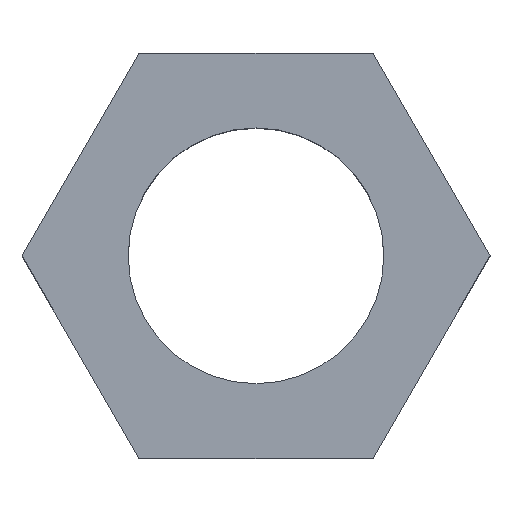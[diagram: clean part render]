
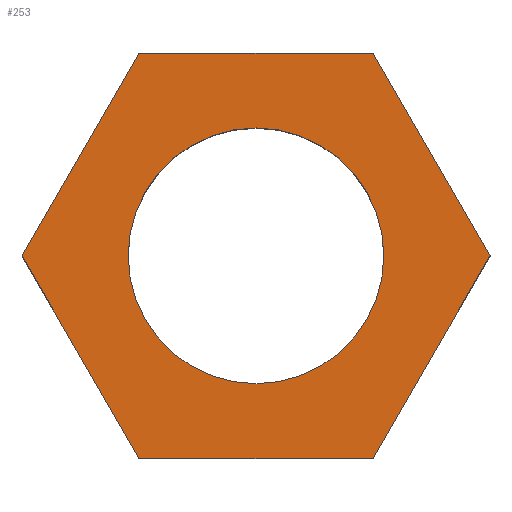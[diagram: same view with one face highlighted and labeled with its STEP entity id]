
A CAD part, top view. The second image highlights one B-rep face of the part: STEP entity #253.
In plain terms, the highlighted planar face has unit normal (0, 0, 1).
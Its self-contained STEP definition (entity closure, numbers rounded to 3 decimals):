
#24 = VERTEX_POINT('',#25);
#25 = CARTESIAN_POINT('',(7.506,0.,6.5));
#31 = EDGE_CURVE('',#24,#32,#34,.T.);
#32 = VERTEX_POINT('',#33);
#33 = CARTESIAN_POINT('',(3.753,6.5,6.5));
#34 = LINE('',#35,#36);
#35 = CARTESIAN_POINT('',(7.506,0.,6.5));
#36 = VECTOR('',#37,1.);
#37 = DIRECTION('',(-0.5,0.866,0.));
#62 = EDGE_CURVE('',#32,#63,#65,.T.);
#63 = VERTEX_POINT('',#64);
#64 = CARTESIAN_POINT('',(-3.753,6.5,6.5));
#65 = LINE('',#66,#67);
#66 = CARTESIAN_POINT('',(3.753,6.5,6.5));
#67 = VECTOR('',#68,1.);
#68 = DIRECTION('',(-1.,0.,0.));
#93 = EDGE_CURVE('',#63,#94,#96,.T.);
#94 = VERTEX_POINT('',#95);
#95 = CARTESIAN_POINT('',(-7.506,0.,6.5));
#96 = LINE('',#97,#98);
#97 = CARTESIAN_POINT('',(-3.753,6.5,6.5));
#98 = VECTOR('',#99,1.);
#99 = DIRECTION('',(-0.5,-0.866,0.));
#124 = EDGE_CURVE('',#94,#125,#127,.T.);
#125 = VERTEX_POINT('',#126);
#126 = CARTESIAN_POINT('',(-3.753,-6.5,6.5));
#127 = LINE('',#128,#129);
#128 = CARTESIAN_POINT('',(-7.506,0.,6.5));
#129 = VECTOR('',#130,1.);
#130 = DIRECTION('',(0.5,-0.866,0.));
#155 = EDGE_CURVE('',#125,#156,#158,.T.);
#156 = VERTEX_POINT('',#157);
#157 = CARTESIAN_POINT('',(3.753,-6.5,6.5));
#158 = LINE('',#159,#160);
#159 = CARTESIAN_POINT('',(-3.753,-6.5,6.5));
#160 = VECTOR('',#161,1.);
#161 = DIRECTION('',(1.,0.,0.));
#186 = EDGE_CURVE('',#156,#24,#187,.T.);
#187 = LINE('',#188,#189);
#188 = CARTESIAN_POINT('',(3.753,-6.5,6.5));
#189 = VECTOR('',#190,1.);
#190 = DIRECTION('',(0.5,0.866,0.));
#210 = VERTEX_POINT('',#211);
#211 = CARTESIAN_POINT('',(4.1,0.,6.5));
#217 = EDGE_CURVE('',#210,#210,#218,.T.);
#218 = CIRCLE('',#219,4.1);
#219 = AXIS2_PLACEMENT_3D('',#220,#221,#222);
#220 = CARTESIAN_POINT('',(0.,0.,6.5));
#221 = DIRECTION('',(0.,0.,1.));
#222 = DIRECTION('',(1.,0.,0.));
#253 = ADVANCED_FACE('',(#254,#262),#265,.T.);
#254 = FACE_BOUND('',#255,.T.);
#255 = EDGE_LOOP('',(#256,#257,#258,#259,#260,#261));
#256 = ORIENTED_EDGE('',*,*,#31,.T.);
#257 = ORIENTED_EDGE('',*,*,#62,.T.);
#258 = ORIENTED_EDGE('',*,*,#93,.T.);
#259 = ORIENTED_EDGE('',*,*,#124,.T.);
#260 = ORIENTED_EDGE('',*,*,#155,.T.);
#261 = ORIENTED_EDGE('',*,*,#186,.T.);
#262 = FACE_BOUND('',#263,.F.);
#263 = EDGE_LOOP('',(#264));
#264 = ORIENTED_EDGE('',*,*,#217,.T.);
#265 = PLANE('',#266);
#266 = AXIS2_PLACEMENT_3D('',#267,#268,#269);
#267 = CARTESIAN_POINT('',(0.,0.,6.5));
#268 = DIRECTION('',(0.,0.,1.));
#269 = DIRECTION('',(1.,0.,0.));
